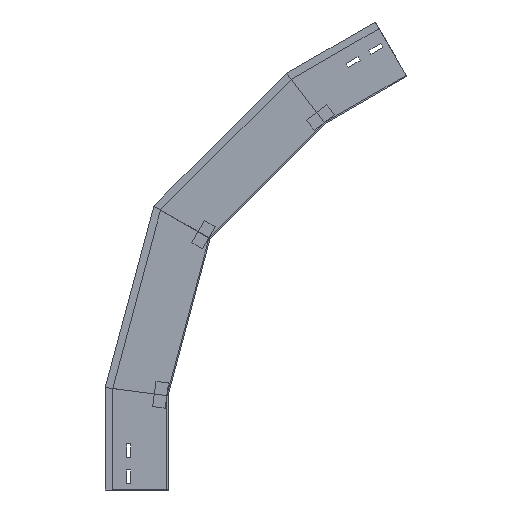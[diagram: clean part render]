
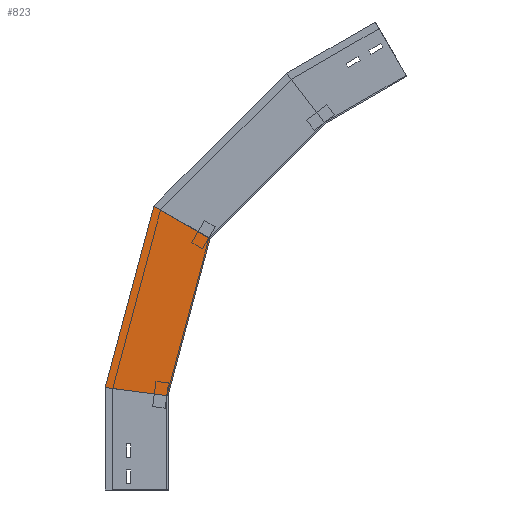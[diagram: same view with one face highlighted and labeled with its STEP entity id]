
A CAD part, left-side view. The second image highlights one B-rep face of the part: STEP entity #823.
In plain terms, the highlighted planar face has unit normal (-1, 0, 0) as drawn and (1, 0, 0) by its records, which use the part's own axes.
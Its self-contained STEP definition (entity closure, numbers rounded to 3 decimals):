
#34 = DIRECTION ( 'NONE',  ( 0., -0.707, 0.707 ) ) ;
#118 = CARTESIAN_POINT ( 'NONE',  ( 0., -46.122, 379.263 ) ) ;
#139 = DIRECTION ( 'NONE',  ( 0., 0., -1. ) ) ;
#165 = VECTOR ( 'NONE', #206, 1000. ) ;
#181 = CARTESIAN_POINT ( 'NONE',  ( 0., 24.589, 449.973 ) ) ;
#206 = DIRECTION ( 'NONE',  ( 0., -0.609, -0.793 ) ) ;
#255 = FACE_OUTER_BOUND ( 'NONE', #1322, .T. ) ;
#280 = VERTEX_POINT ( 'NONE', #1479 ) ;
#314 = VECTOR ( 'NONE', #715, 1000. ) ;
#335 = DIRECTION ( 'NONE',  ( 0., -0.866, -0.5 ) ) ;
#397 = VERTEX_POINT ( 'NONE', #1656 ) ;
#439 = CARTESIAN_POINT ( 'NONE',  ( 0., -46.122, 379.263 ) ) ;
#481 = CARTESIAN_POINT ( 'NONE',  ( 0., -188.773, 663.335 ) ) ;
#526 = AXIS2_PLACEMENT_3D ( 'NONE', #118, #926, #139 ) ;
#588 = CARTESIAN_POINT ( 'NONE',  ( 0., 22.623, 451.939 ) ) ;
#628 = ORIENTED_EDGE ( 'NONE', *, *, #744, .T. ) ;
#660 = VECTOR ( 'NONE', #335, 1000. ) ;
#663 = ORIENTED_EDGE ( 'NONE', *, *, #1155, .T. ) ;
#679 = CARTESIAN_POINT ( 'NONE',  ( 0., -128.356, 364.771 ) ) ;
#715 = DIRECTION ( 'NONE',  ( 0., -0.707, 0.707 ) ) ;
#744 = EDGE_CURVE ( 'NONE', #1308, #997, #1498, .T. ) ;
#789 = CARTESIAN_POINT ( 'NONE',  ( 0., -273.105, 553.433 ) ) ;
#823 = ADVANCED_FACE ( 'NONE', ( #255 ), #1304, .T. ) ;
#861 = ORIENTED_EDGE ( 'NONE', *, *, #1020, .F. ) ;
#926 = DIRECTION ( 'NONE',  ( 1., 0., 0. ) ) ;
#997 = VERTEX_POINT ( 'NONE', #481 ) ;
#1020 = EDGE_CURVE ( 'NONE', #1308, #280, #1514, .T. ) ;
#1155 = EDGE_CURVE ( 'NONE', #997, #397, #1501, .T. ) ;
#1235 = LINE ( 'NONE', #439, #1499 ) ;
#1280 = EDGE_CURVE ( 'NONE', #280, #397, #1235, .T. ) ;
#1304 = PLANE ( 'NONE',  #526 ) ;
#1308 = VERTEX_POINT ( 'NONE', #588 ) ;
#1322 = EDGE_LOOP ( 'NONE', ( #628, #663, #1368, #861 ) ) ;
#1368 = ORIENTED_EDGE ( 'NONE', *, *, #1280, .F. ) ;
#1479 = CARTESIAN_POINT ( 'NONE',  ( 0., -67.034, 400.175 ) ) ;
#1498 = LINE ( 'NONE', #181, #314 ) ;
#1499 = VECTOR ( 'NONE', #34, 1000. ) ;
#1501 = LINE ( 'NONE', #789, #165 ) ;
#1514 = LINE ( 'NONE', #679, #660 ) ;
#1656 = CARTESIAN_POINT ( 'NONE',  ( 0., -250.175, 583.315 ) ) ;
